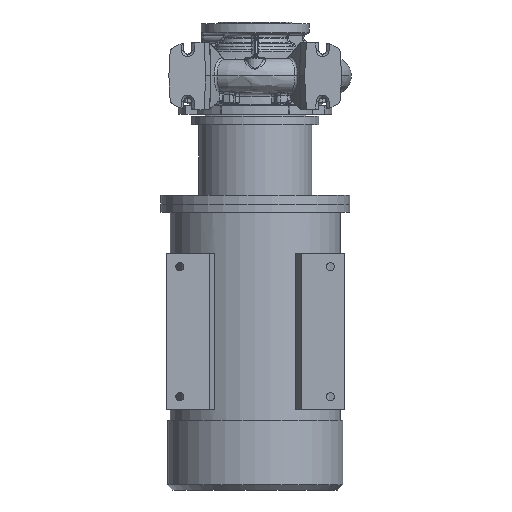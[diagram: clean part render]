
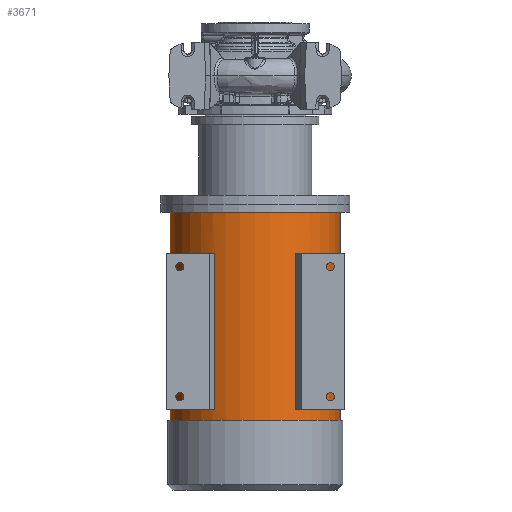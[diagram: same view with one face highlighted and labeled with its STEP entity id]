
A CAD part, front view. The second image highlights one B-rep face of the part: STEP entity #3671.
In plain terms, the highlighted cylindrical face has radius 157.5 mm (diameter 315 mm), a partial arc.
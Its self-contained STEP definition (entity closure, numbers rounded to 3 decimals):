
#884 = CARTESIAN_POINT ( 'NONE',  ( 0., 0., -767.3 ) ) ;
#1177 = LINE ( 'NONE', #42612, #63371 ) ;
#1288 = CIRCLE ( 'NONE', #11312, 157.5 ) ;
#1924 = DIRECTION ( 'NONE',  ( 1., 0., 0. ) ) ;
#2138 = CARTESIAN_POINT ( 'NONE',  ( 74.479, -138.777, -618.8 ) ) ;
#2544 = CYLINDRICAL_SURFACE ( 'NONE', #41741, 157.5 ) ;
#3671 = ADVANCED_FACE ( 'NONE', ( #25249, #16484, #48943 ), #2544, .T. ) ;
#4919 = VERTEX_POINT ( 'NONE', #33159 ) ;
#5039 = VERTEX_POINT ( 'NONE', #19806 ) ;
#5401 = ORIENTED_EDGE ( 'NONE', *, *, #15556, .T. ) ;
#6265 = VERTEX_POINT ( 'NONE', #28232 ) ;
#6761 = CARTESIAN_POINT ( 'NONE',  ( -86.091, -131.889, -767.3 ) ) ;
#6931 = CARTESIAN_POINT ( 'NONE',  ( 74.479, -138.777, -328.8 ) ) ;
#7009 = ORIENTED_EDGE ( 'NONE', *, *, #31817, .T. ) ;
#7269 = VERTEX_POINT ( 'NONE', #24662 ) ;
#7753 = VERTEX_POINT ( 'NONE', #52185 ) ;
#8615 = EDGE_CURVE ( 'NONE', #32567, #5039, #37764, .T. ) ;
#8905 = CARTESIAN_POINT ( 'NONE',  ( -157.5, 0., -252.3 ) ) ;
#9515 = CARTESIAN_POINT ( 'NONE',  ( 0., 0., -252.3 ) ) ;
#11312 = AXIS2_PLACEMENT_3D ( 'NONE', #9515, #14149, #14384 ) ;
#11839 = DIRECTION ( 'NONE',  ( -1., 0., 0. ) ) ;
#12079 = DIRECTION ( 'NONE',  ( 0., 0., -1. ) ) ;
#12485 = VECTOR ( 'NONE', #62074, 1000. ) ;
#14149 = DIRECTION ( 'NONE',  ( 0., 0., -1. ) ) ;
#14384 = DIRECTION ( 'NONE',  ( -1., 0., 0. ) ) ;
#15556 = EDGE_CURVE ( 'NONE', #46099, #6265, #22527, .T. ) ;
#15957 = CARTESIAN_POINT ( 'NONE',  ( -157.5, 0., -767.3 ) ) ;
#16363 = EDGE_LOOP ( 'NONE', ( #28180, #5401, #41041, #68215 ) ) ;
#16484 = FACE_BOUND ( 'NONE', #31865, .T. ) ;
#17140 = EDGE_LOOP ( 'NONE', ( #20170, #61092, #46370, #53550 ) ) ;
#17156 = CARTESIAN_POINT ( 'NONE',  ( 0., 0., -638.3 ) ) ;
#17276 = VECTOR ( 'NONE', #52342, 1000. ) ;
#19477 = CARTESIAN_POINT ( 'NONE',  ( -74.479, -138.777, -618.8 ) ) ;
#19806 = CARTESIAN_POINT ( 'NONE',  ( -157.5, 0., -638.3 ) ) ;
#20087 = DIRECTION ( 'NONE',  ( 0., 0., 1. ) ) ;
#20170 = ORIENTED_EDGE ( 'NONE', *, *, #60958, .F. ) ;
#22527 = CIRCLE ( 'NONE', #53502, 157.5 ) ;
#23008 = LINE ( 'NONE', #51705, #12485 ) ;
#23217 = VERTEX_POINT ( 'NONE', #41295 ) ;
#24662 = CARTESIAN_POINT ( 'NONE',  ( 157.5, 0., -252.3 ) ) ;
#24905 = VERTEX_POINT ( 'NONE', #2138 ) ;
#24963 = LINE ( 'NONE', #15957, #38092 ) ;
#25249 = FACE_OUTER_BOUND ( 'NONE', #17140, .T. ) ;
#25426 = LINE ( 'NONE', #6761, #41967 ) ;
#26403 = CARTESIAN_POINT ( 'NONE',  ( 157.5, 0., -638.3 ) ) ;
#28086 = EDGE_CURVE ( 'NONE', #29635, #4919, #66914, .T. ) ;
#28180 = ORIENTED_EDGE ( 'NONE', *, *, #43215, .F. ) ;
#28232 = CARTESIAN_POINT ( 'NONE',  ( -86.091, -131.889, -618.8 ) ) ;
#29069 = CARTESIAN_POINT ( 'NONE',  ( 0., 0., -328.8 ) ) ;
#29635 = VERTEX_POINT ( 'NONE', #6931 ) ;
#30884 = DIRECTION ( 'NONE',  ( -1., 0., 0. ) ) ;
#31343 = ORIENTED_EDGE ( 'NONE', *, *, #28086, .T. ) ;
#31817 = EDGE_CURVE ( 'NONE', #4919, #7753, #23008, .T. ) ;
#31865 = EDGE_LOOP ( 'NONE', ( #52860, #40671, #31343, #7009 ) ) ;
#32567 = VERTEX_POINT ( 'NONE', #26403 ) ;
#33159 = CARTESIAN_POINT ( 'NONE',  ( 86.091, -131.889, -328.8 ) ) ;
#34017 = DIRECTION ( 'NONE',  ( 0., 0., -1. ) ) ;
#34443 = EDGE_CURVE ( 'NONE', #24905, #29635, #1177, .T. ) ;
#34503 = CARTESIAN_POINT ( 'NONE',  ( 0., 0., -328.8 ) ) ;
#34897 = AXIS2_PLACEMENT_3D ( 'NONE', #17156, #34017, #68380 ) ;
#34985 = DIRECTION ( 'NONE',  ( 1., 0., 0. ) ) ;
#35214 = AXIS2_PLACEMENT_3D ( 'NONE', #34503, #68635, #34985 ) ;
#37764 = CIRCLE ( 'NONE', #34897, 157.5 ) ;
#37976 = EDGE_CURVE ( 'NONE', #24905, #7753, #47427, .T. ) ;
#38092 = VECTOR ( 'NONE', #72099, 1000. ) ;
#38254 = AXIS2_PLACEMENT_3D ( 'NONE', #29069, #63106, #62876 ) ;
#39176 = LINE ( 'NONE', #46706, #17276 ) ;
#40536 = VECTOR ( 'NONE', #55242, 1000. ) ;
#40671 = ORIENTED_EDGE ( 'NONE', *, *, #34443, .T. ) ;
#40898 = EDGE_CURVE ( 'NONE', #53169, #6265, #25426, .T. ) ;
#41041 = ORIENTED_EDGE ( 'NONE', *, *, #40898, .F. ) ;
#41295 = CARTESIAN_POINT ( 'NONE',  ( -74.479, -138.777, -328.8 ) ) ;
#41741 = AXIS2_PLACEMENT_3D ( 'NONE', #884, #12079, #11839 ) ;
#41967 = VECTOR ( 'NONE', #67753, 1000. ) ;
#42605 = CARTESIAN_POINT ( 'NONE',  ( 0., 0., -618.8 ) ) ;
#42612 = CARTESIAN_POINT ( 'NONE',  ( 74.479, -138.777, -767.3 ) ) ;
#43215 = EDGE_CURVE ( 'NONE', #46099, #23217, #55502, .T. ) ;
#46099 = VERTEX_POINT ( 'NONE', #19477 ) ;
#46370 = ORIENTED_EDGE ( 'NONE', *, *, #64771, .T. ) ;
#46706 = CARTESIAN_POINT ( 'NONE',  ( 157.5, 0., -767.3 ) ) ;
#47427 = CIRCLE ( 'NONE', #61136, 157.5 ) ;
#48624 = CARTESIAN_POINT ( 'NONE',  ( -86.091, -131.889, -328.8 ) ) ;
#48943 = FACE_BOUND ( 'NONE', #16363, .T. ) ;
#49123 = CARTESIAN_POINT ( 'NONE',  ( -74.479, -138.777, -767.3 ) ) ;
#50485 = EDGE_CURVE ( 'NONE', #23217, #53169, #62932, .T. ) ;
#51705 = CARTESIAN_POINT ( 'NONE',  ( 86.091, -131.889, -767.3 ) ) ;
#52067 = DIRECTION ( 'NONE',  ( 0., 0., -1. ) ) ;
#52185 = CARTESIAN_POINT ( 'NONE',  ( 86.091, -131.889, -618.8 ) ) ;
#52342 = DIRECTION ( 'NONE',  ( 0., 0., -1. ) ) ;
#52860 = ORIENTED_EDGE ( 'NONE', *, *, #37976, .F. ) ;
#53169 = VERTEX_POINT ( 'NONE', #48624 ) ;
#53502 = AXIS2_PLACEMENT_3D ( 'NONE', #57720, #52067, #1924 ) ;
#53550 = ORIENTED_EDGE ( 'NONE', *, *, #8615, .F. ) ;
#53554 = VERTEX_POINT ( 'NONE', #8905 ) ;
#55242 = DIRECTION ( 'NONE',  ( 0., 0., 1. ) ) ;
#55502 = LINE ( 'NONE', #49123, #40536 ) ;
#57720 = CARTESIAN_POINT ( 'NONE',  ( 0., 0., -618.8 ) ) ;
#60958 = EDGE_CURVE ( 'NONE', #7269, #32567, #39176, .T. ) ;
#61092 = ORIENTED_EDGE ( 'NONE', *, *, #66230, .T. ) ;
#61136 = AXIS2_PLACEMENT_3D ( 'NONE', #42605, #20087, #30884 ) ;
#62074 = DIRECTION ( 'NONE',  ( 0., 0., -1. ) ) ;
#62876 = DIRECTION ( 'NONE',  ( -1., 0., 0. ) ) ;
#62932 = CIRCLE ( 'NONE', #35214, 157.5 ) ;
#63106 = DIRECTION ( 'NONE',  ( 0., 0., 1. ) ) ;
#63371 = VECTOR ( 'NONE', #71362, 1000. ) ;
#64771 = EDGE_CURVE ( 'NONE', #53554, #5039, #24963, .T. ) ;
#66230 = EDGE_CURVE ( 'NONE', #7269, #53554, #1288, .T. ) ;
#66914 = CIRCLE ( 'NONE', #38254, 157.5 ) ;
#67753 = DIRECTION ( 'NONE',  ( 0., 0., -1. ) ) ;
#68215 = ORIENTED_EDGE ( 'NONE', *, *, #50485, .F. ) ;
#68380 = DIRECTION ( 'NONE',  ( -1., 0., 0. ) ) ;
#68635 = DIRECTION ( 'NONE',  ( 0., 0., -1. ) ) ;
#71362 = DIRECTION ( 'NONE',  ( 0., 0., 1. ) ) ;
#72099 = DIRECTION ( 'NONE',  ( 0., 0., -1. ) ) ;
